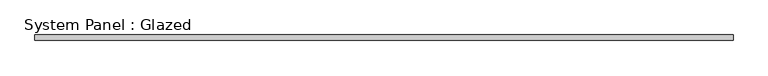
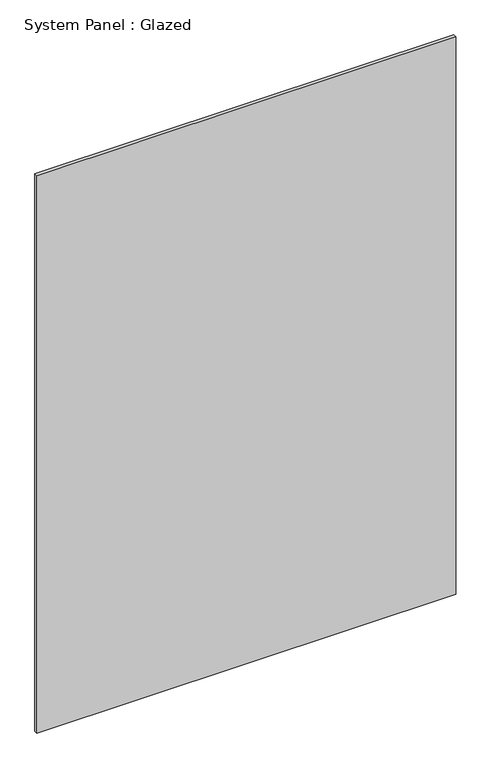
"""IFC4 building model written with IfcOpenShell, lengths in millimetres: plate geometry, System Panel : Glazed."""

from ifc_helpers import new_model, si_unit, origin, origin_with_axes, place, context, project, spatial, polyline, outline, extrude, source, transform, mapped, element, save


def system_panel_glazed_078a3d84(model_context):
    return source(origin(), model_context, "Body", "SweptSolid", [
        extrude(outline(polyline([(750.0, 4.0), (-750.0, 4.0), (-750.0, 16.0), (750.0, 16.0), (750.0, 4.0)])), origin_with_axes(), (0.0, 0.0, 1.0), 2110.0),
    ])


if __name__ == "__main__":
    model = new_model("IFC4")
    model_context = context("Model", 3, world=origin())
    ifc_project = project(units=[si_unit("LENGTHUNIT", "METRE", prefix="MILLI")], contexts=[model_context])
    site = spatial("IfcSite", under=ifc_project)
    building = spatial("IfcBuilding", under=site)
    placement = place(None, origin())
    system_panel_glazed_shape = system_panel_glazed_078a3d84(model_context)
    element("IfcPlate", 1, ObjectType="System Panel : Glazed", at=placement, inside=building, context=model_context, shape_type="MappedRepresentation", body=[
        mapped(system_panel_glazed_shape, transform((0.0, 0.0, 0.0), x_axis=(1.0, 0.0, 0.0), y_axis=(0.0, 1.0, 0.0), z_axis=(0.0, 0.0, 1.0))),
    ])
    save(model, "model.ifc")
